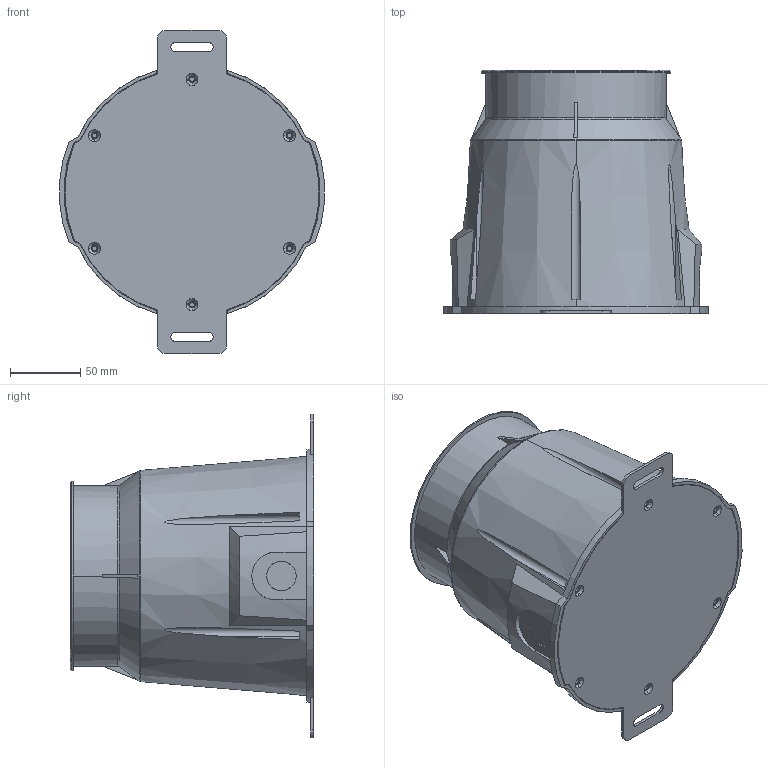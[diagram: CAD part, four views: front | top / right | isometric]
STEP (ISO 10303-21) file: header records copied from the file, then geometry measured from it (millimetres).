
FILE_DESCRIPTION((''),'2;1');
FILE_NAME('4XC_ASM','2024-08-28T',('Administrator'),(''),'CREO PARAMETRIC BY PTC INC, 2014500','CREO PARAMETRIC BY PTC INC, 2014500','');
FILE_SCHEMA(('CONFIG_CONTROL_DESIGN'));
Length unit declared in the file: millimetre
Products named in the file (27): 4XC-HOUSING; 4XBSANREKUAI; 4XC_COVER; COVER-SILICON; GLASS; PROTECTION_ASM; SUS304BOSS; M10_1_2; 4YB-SANREBAN; 4YBLJB-49; B15-4; B15-5; 002_ASM; LUO-MAO-1_2_3; LUO-GAN-2_1_2; DIAN-QUAN-5_1_2; 4XCX_4_2; PG11_ASM; 4XC-NEW-SLEEVE-02; 4XC-YMT-DIGAI; 4A-YMT-DIGAI; 4XCFST; 4XC-SLEEVE-02_ASM; 4XC-FGQ-006; 4XC-AFENGWOWANG; YAJINGQUAN; 4XC_ASM
Assembly tree (37 placements, depth 3):
  4XC_ASM
    4XC-HOUSING
    4XBSANREKUAI
    4XC_COVER
    PROTECTION_ASM
      COVER-SILICON
      GLASS
    SUS304BOSS  x6
    M10_1_2  x6
    4YB-SANREBAN
    4YBLJB-49
    002_ASM  x2
      B15-4
      B15-5
    PG11_ASM
      LUO-MAO-1_2_3
      LUO-GAN-2_1_2
      DIAN-QUAN-5_1_2
      4XCX_4_2
    4XC-SLEEVE-02_ASM
      4XC-NEW-SLEEVE-02
      4XC-YMT-DIGAI
      4A-YMT-DIGAI
      4XCFST
    4XC-FGQ-006
    4XC-AFENGWOWANG
    YAJINGQUAN
Bounding box: 188.23 x 173 x 230 mm (x, y, z)
Volume: 548108.2 mm3; surface area: 487563 mm2
Topology: 35 solids, 35 shells, 2450 faces, 6735 edges, 4420 vertices
Faces by surface type: plane 1118, cylinder 865, cone 179, bspline 178, torus 108, extrusion 2
Entity records: 87498 total; most frequent: CARTESIAN_POINT 37203, ORIENTED_EDGE 10840, DIRECTION 9921, EDGE_CURVE 5420, AXIS2_PLACEMENT_3D 3599, VERTEX_POINT 3558, VECTOR 2723, LINE 2721
